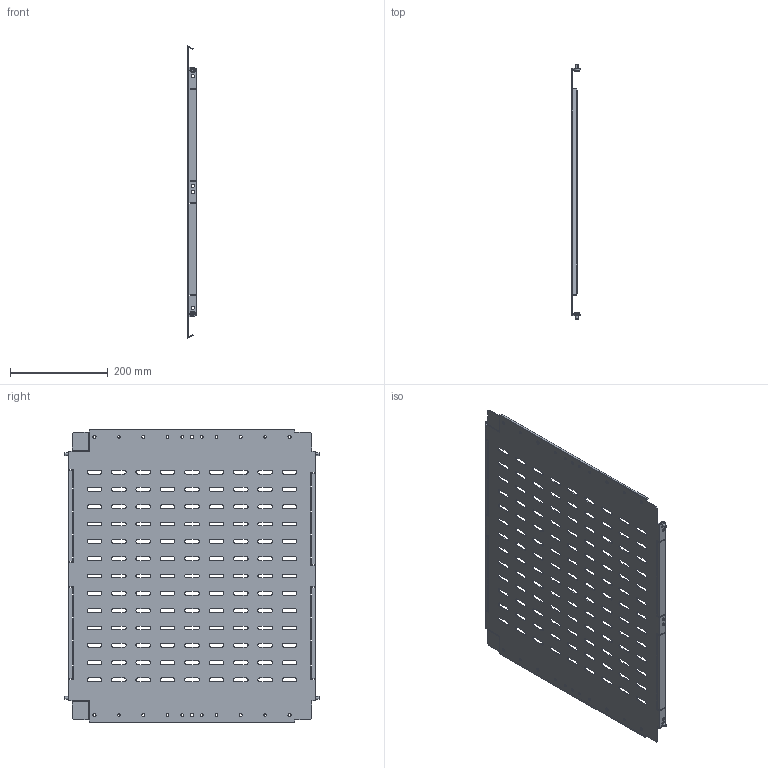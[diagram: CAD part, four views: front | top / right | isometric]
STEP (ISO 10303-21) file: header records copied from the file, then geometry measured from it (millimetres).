
FILE_DESCRIPTION (( 'STEP AP214' ), '1' );
FILE_NAME ('FO-00-SWV-060-060 Ïåðåãîðîäêà ñåêöèîíèðîâàíèÿ âåðòèêàëüíàÿ 600õ600 ìì.STEP', '2025-09-18T14:02:27', ( '' ), ( '' ), 'SwSTEP 2.0', 'SolidWorks 2023', '' );
FILE_SCHEMA (( 'AUTOMOTIVE_DESIGN' ));
Length unit declared in the file: millimetre
Products named in the file (1): FO-00-SWV-060-060 Перегородка секционирования вертикальная 600х600 мм
Bounding box: 17.5 x 521.9 x 600.39 mm (x, y, z)
Volume: 449465.3 mm3; surface area: 617072.1 mm2
Topology: 1 solids, 1 shells, 874 faces, 2584 edges, 1712 vertices
Faces by surface type: plane 464, cylinder 378, cone 16, torus 16
Entity records: 30055 total; most frequent: CARTESIAN_POINT 5171, ORIENTED_EDGE 5168, DIRECTION 5138, EDGE_CURVE 2584, LINE 1780, VECTOR 1780, VERTEX_POINT 1712, AXIS2_PLACEMENT_3D 1679
